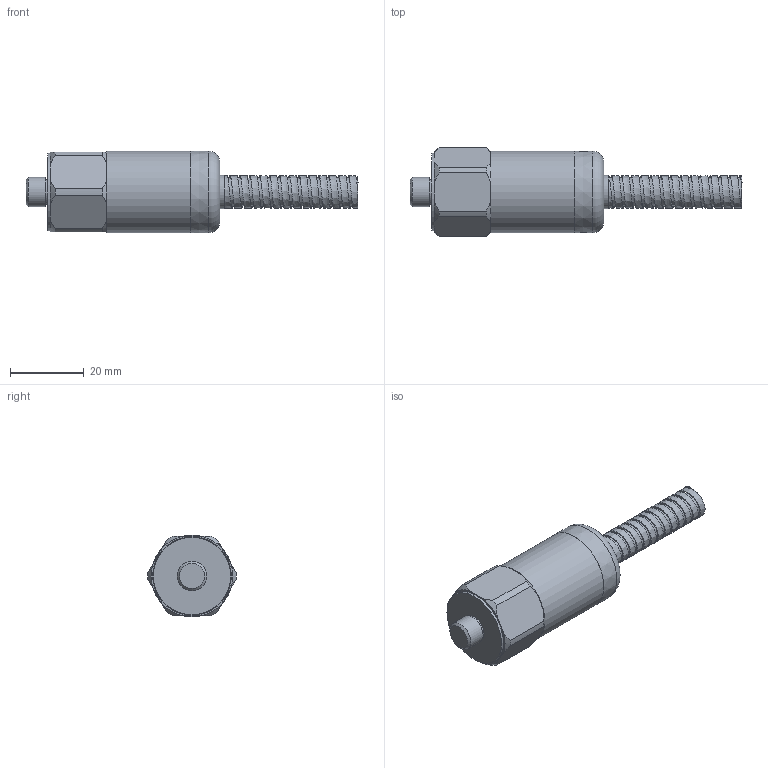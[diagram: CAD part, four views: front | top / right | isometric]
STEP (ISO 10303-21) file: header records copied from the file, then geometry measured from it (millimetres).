
FILE_DESCRIPTION(/* description */ (''),/* implementation_level */ '2;1');
FILE_NAME(/* name */ 'Z:\Engineering\Drawings\3D Library\Assemblies\Website\Premium Top\HS-150 Top FEP Cable with Protective Conduit\HS-150XXX30C08.stp',/* time_stamp */ '2023-03-02T22:42:09+00:00',/* author */ ('Ricardo.Peneda'),/* organization */ (''),/* preprocessor_version */ 'ST-DEVELOPER v18.1',/* originating_system */ 'Autodesk Inventor 2021',/* authorisation */ '');
FILE_SCHEMA (('AUTOMOTIVE_DESIGN { 1 0 10303 214 3 1 1 }'));
Length unit declared in the file: inch
Products named in the file (1): HS-150XXX30C08_Shrinkwrap_1
Bounding box: 90.25 x 23.99 x 22.22 mm (x, y, z)
Volume: 12995.2 mm3; surface area: 10491.2 mm2
Topology: 4 solids, 4 shells, 92 faces, 247 edges, 172 vertices
Faces by surface type: cone 35, plane 30, cylinder 18, bspline 8, torus 1
Full cylindrical faces by diameter (mm): 5 x1, 5.359 x1, 6.35 x1, 6.8 x1, 7 x1, 7.5 x1, 8 x1, 9 x1, 15.055 x1, 20 x1, 21 x1, 22.2 x1
Entity records: 17055 total; most frequent: CARTESIAN_POINT 14577, DIRECTION 506, ORIENTED_EDGE 492, EDGE_CURVE 246, AXIS2_PLACEMENT_3D 215, VERTEX_POINT 172, CIRCLE 130, EDGE_LOOP 104
